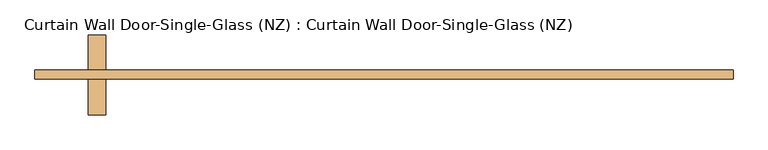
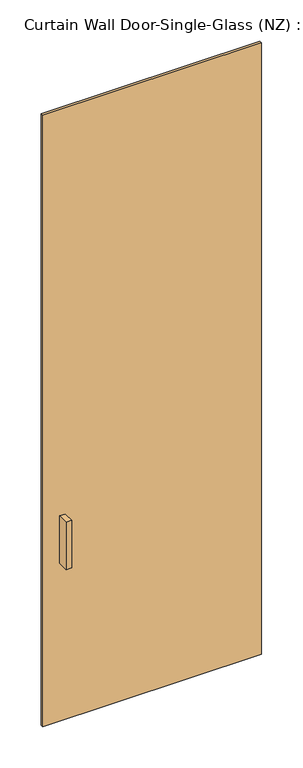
"""IFC4 building model written with IfcOpenShell, lengths in millimetres: door geometry, Curtain Wall Door-Single-Glass (NZ) : Curtain Wall Door-Single-Glass (NZ)."""

from ifc_helpers import new_model, si_unit, frame, origin, origin_with_axes, place, context, project, spatial, polyline, outline, extrude, source, transform, mapped, element, save


def curtain_wall_door_single_glass_nz_curtain_wall_door_single_3e4811c4(model_context):
    return source(origin(), model_context, "Body", "SweptSolid", [
        extrude(outline(polyline([(499.25, -51.0), (-499.25, -51.0), (-499.25, -38.3), (499.25, -38.3), (499.25, -51.0)])), origin_with_axes(), (0.0, 0.0, 1.0), 2950.0),
        extrude(outline(polyline([(-423.05, -101.8), (-423.05, -51.0), (-397.65, -51.0), (-397.65, -101.8), (-423.05, -101.8)])), frame((0.0, 0.0, 762.0), z_axis=(0.0, 0.0, 1.0), x_axis=(1.0, 0.0, 0.0)), (0.0, 0.0, 1.0), 228.6),
        extrude(outline(polyline([(-397.65, 12.5), (-397.65, -38.3), (-423.05, -38.3), (-423.05, 12.5), (-397.65, 12.5)])), frame((0.0, 0.0, 762.0), z_axis=(0.0, 0.0, 1.0), x_axis=(1.0, 0.0, 0.0)), (0.0, 0.0, 1.0), 228.6),
    ])


if __name__ == "__main__":
    model = new_model("IFC4")
    model_context = context("Model", 3, world=origin())
    ifc_project = project(units=[si_unit("LENGTHUNIT", "METRE", prefix="MILLI")], contexts=[model_context])
    site = spatial("IfcSite", under=ifc_project)
    building = spatial("IfcBuilding", under=site)
    placement = place(None, origin())
    curtain_wall_door_single_glass_nz_curtain_wall_door_single_shape = curtain_wall_door_single_glass_nz_curtain_wall_door_single_3e4811c4(model_context)
    element("IfcDoor", 1, ObjectType="Curtain Wall Door-Single-Glass (NZ) : Curtain Wall Door-Single-Glass (NZ)", at=placement, inside=building, context=model_context, shape_type="MappedRepresentation", body=[
        mapped(curtain_wall_door_single_glass_nz_curtain_wall_door_single_shape, transform((0.0, 0.0, 0.0), x_axis=(1.0, 0.0, 0.0), y_axis=(0.0, 1.0, 0.0), z_axis=(0.0, 0.0, 1.0))),
    ])
    save(model, "model.ifc")
